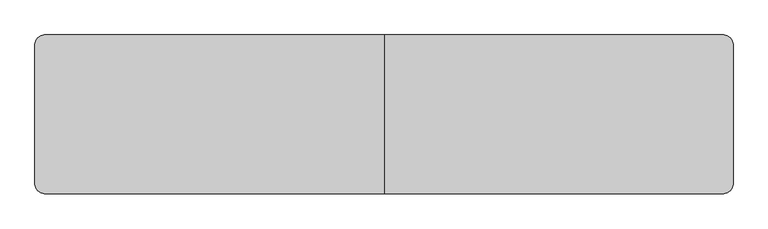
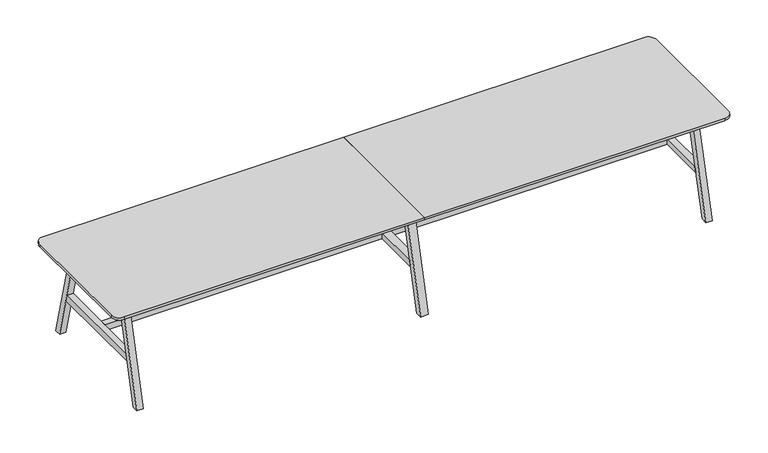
"""IFC4 building model written with IfcOpenShell, lengths in millimetres: furniture geometry, BDG_BossDesign_Tbls_AgentTables6Legs : AGE-DT-6L-4400-1000-3D."""

from ifc_helpers import new_model, si_unit, point, frame, frame_2d, origin, place, context, project, spatial, polyline, circle_curve, trimmed, segment, composite_curve, outline, extrude, source, transform, mapped, element, save


def furniture_8d13127c(model_context):
    return source(origin(), model_context, "Body", "SweptSolid", [
        extrude(outline(polyline([(500.0, 0.0), (454.9999949, 0.0), (285.5, 660.0), (330.5000051, 660.0), (500.0, 0.0)])), frame((-27.5, 0.0, 0.0), z_axis=(1.0, 0.0, 0.0), x_axis=(0.0, 1.0, 0.0)), (0.0, 0.0, 1.0), 55.0),
        extrude(outline(polyline([(-500.0, 0.0), (-330.5000051, 660.0), (-285.5, 660.0), (-454.9999949, 0.0), (-500.0, 0.0)])), frame((-27.5, 0.0, 0.0), z_axis=(1.0, 0.0, 0.0), x_axis=(0.0, 1.0, 0.0)), (0.0, 0.0, 1.0), 55.0),
        extrude(outline(polyline([(377.9545427, 300.0), (-377.9545427, 300.0), (-366.3977249, 345.0), (366.3977249, 345.0), (377.9545427, 300.0)])), frame((-27.5, 0.0, 0.0), z_axis=(1.0, 0.0, 0.0), x_axis=(0.0, 1.0, 0.0)), (0.0, 0.0, 1.0), 55.0),
        extrude(outline(composite_curve([segment(polyline([(0.0, 500.0), (0.0, -500.0), (-2140.0, -500.0)]), True, "CONTINUOUS"), segment(trimmed(circle_curve(frame_2d((-2140.0, -440.0)), 60.0), [point((-2140.0, -500.0))], [point((-2200.0, -440.0))], False, "CARTESIAN"), True, "CONTINUOUS"), segment(polyline([(-2200.0, -440.0), (-2200.0, 440.0)]), True, "CONTINUOUS"), segment(trimmed(circle_curve(frame_2d((-2140.0, 440.0)), 60.0), [point((-2200.0, 440.0))], [point((-2140.0, 500.0))], False, "CARTESIAN"), True, "CONTINUOUS"), segment(polyline([(-2140.0, 500.0), (0.0, 500.0)]), True, "CONTINUOUS")], self_intersect=False)), frame((0.0, 0.0, 722.0), z_axis=(0.0, 0.0, 1.0), x_axis=(1.0, 0.0, 0.0)), (0.0, 0.0, 1.0), 18.0),
        extrude(outline(polyline([(-366.3977249, 345.0), (366.3977249, 345.0), (377.9545427, 300.0), (-377.9545427, 300.0), (-366.3977249, 345.0)])), frame((2005.0, 0.0, 0.0), z_axis=(1.0, 0.0, 0.0), x_axis=(0.0, 1.0, 0.0)), (0.0, 0.0, 1.0), 45.0),
        extrude(outline(polyline([(500.0, 0.0), (454.9999949, 0.0), (285.5, 660.0), (330.5000051, 660.0), (500.0, 0.0)])), frame((-2050.0, 0.0, 0.0), z_axis=(1.0, 0.0, 0.0), x_axis=(0.0, 1.0, 0.0)), (0.0, 0.0, 1.0), 45.0),
        extrude(outline(polyline([(-500.0, 0.0), (-330.5000051, 660.0), (-285.5, 660.0), (-454.9999949, 0.0), (-500.0, 0.0)])), frame((-2050.0, 0.0, 0.0), z_axis=(1.0, 0.0, 0.0), x_axis=(0.0, 1.0, 0.0)), (0.0, 0.0, 1.0), 45.0),
        extrude(outline(polyline([(-366.3977249, 345.0), (366.3977249, 345.0), (377.9545427, 300.0), (-377.9545427, 300.0), (-366.3977249, 345.0)])), frame((-2050.0, 0.0, 0.0), z_axis=(1.0, 0.0, 0.0), x_axis=(0.0, 1.0, 0.0)), (0.0, 0.0, 1.0), 45.0),
        extrude(outline(polyline([(-326.6006165, 634.973938), (-304.2770691, 722.0), (-279.5, 722.0), (-301.8235474, 634.973938), (-326.6006165, 634.973938)])), frame((-2005.0, 0.0, 0.0), z_axis=(1.0, 0.0, 0.0), x_axis=(0.0, 1.0, 0.0)), (0.0, 0.0, 1.0), 4010.0),
        extrude(outline(polyline([(326.6006165, 634.973938), (301.8235474, 634.973938), (279.5, 722.0), (304.2770691, 722.0), (326.6006165, 634.973938)])), frame((-2005.0, 0.0, 0.0), z_axis=(1.0, 0.0, 0.0), x_axis=(0.0, 1.0, 0.0)), (0.0, 0.0, 1.0), 4010.0),
        extrude(outline(polyline([(499.7999878, 0.0), (454.7999827, 0.0), (285.5, 660.0), (330.5000051, 660.0), (499.7999878, 0.0)])), frame((2005.0, 0.0, 0.0), z_axis=(1.0, 0.0, 0.0), x_axis=(0.0, 1.0, 0.0)), (0.0, 0.0, 1.0), 45.0),
        extrude(outline(polyline([(-499.7999878, 0.0), (-330.5000051, 660.0), (-285.5, 660.0), (-454.7999827, 0.0), (-499.7999878, 0.0)])), frame((2005.0, 0.0, 0.0), z_axis=(1.0, 0.0, 0.0), x_axis=(0.0, 1.0, 0.0)), (0.0, 0.0, 1.0), 45.0),
        extrude(outline(polyline([(-27.5, 22.5000305), (-27.5, -22.5000305), (-2005.0, -22.5000305), (-2005.0, 22.5000305), (-27.5, 22.5000305)])), frame((0.0, 0.0, 300.0), z_axis=(0.0, 0.0, 1.0), x_axis=(1.0, 0.0, 0.0)), (0.0, 0.0, 1.0), 45.0),
        extrude(outline(polyline([(27.5, -22.5000305), (27.5, 22.5000305), (2005.0, 22.5000305), (2005.0, -22.5000305), (27.5, -22.5000305)])), frame((0.0, 0.0, 300.0), z_axis=(0.0, 0.0, 1.0), x_axis=(1.0, 0.0, 0.0)), (0.0, 0.0, 1.0), 45.0),
        extrude(outline(composite_curve([segment(trimmed(circle_curve(frame_2d((2140.0, 440.0)), 60.0), [point((2140.0, 500.0))], [point((2200.0, 440.0))], False, "CARTESIAN"), True, "CONTINUOUS"), segment(polyline([(2200.0, 440.0), (2200.0, -440.0)]), True, "CONTINUOUS"), segment(trimmed(circle_curve(frame_2d((2140.0, -440.0)), 60.0), [point((2200.0, -440.0))], [point((2140.0, -500.0))], False, "CARTESIAN"), True, "CONTINUOUS"), segment(polyline([(2140.0, -500.0), (0.0, -500.0), (0.0, 500.0), (2140.0, 500.0)]), True, "CONTINUOUS")], self_intersect=False)), frame((0.0, 0.0, 722.0), z_axis=(0.0, 0.0, 1.0), x_axis=(1.0, 0.0, 0.0)), (0.0, 0.0, 1.0), 18.0),
    ])


if __name__ == "__main__":
    model = new_model("IFC4")
    model_context = context("Model", 3, world=origin())
    ifc_project = project(units=[si_unit("LENGTHUNIT", "METRE", prefix="MILLI")], contexts=[model_context])
    site = spatial("IfcSite", under=ifc_project)
    building = spatial("IfcBuilding", under=site)
    placement = place(None, origin())
    furniture_shape = furniture_8d13127c(model_context)
    element("IfcFurniture", 1, ObjectType="BDG_BossDesign_Tbls_AgentTables6Legs : AGE-DT-6L-4400-1000-3D", at=placement, inside=building, context=model_context, shape_type="MappedRepresentation", body=[
        mapped(furniture_shape, transform((0.0, 0.0, 0.0), x_axis=(1.0, 0.0, 0.0), y_axis=(0.0, 1.0, 0.0), z_axis=(0.0, 0.0, 1.0))),
    ])
    save(model, "model.ifc")
